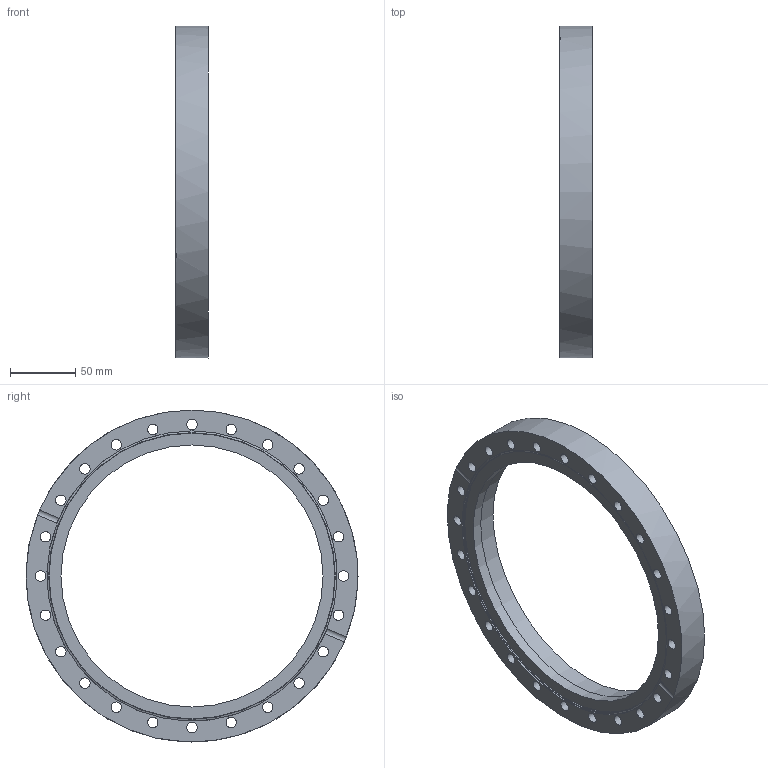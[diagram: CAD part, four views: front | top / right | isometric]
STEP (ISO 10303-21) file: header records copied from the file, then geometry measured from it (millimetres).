
FILE_DESCRIPTION( ( 'Unknown' ), '1' );
FILE_NAME( 'X:/Daten ( aktueller Bestand )/Projekte und Zeichnungen/Solid Edge/STP-Dateien/CF-Teile/7516FG4.stp', 'Unknown', ( 'Unknown' ), ( 'Unknown' ), 'PSStep 14.0', 'Unknown', ' ' );
FILE_SCHEMA( ( 'AUTOMOTIVE_DESIGN { 1 0 10303 214 1 1 1 1 }' ) );
Length unit declared in the file: millimetre
Products named in the file (1): 1
Bounding box: 24.6 x 254 x 254 mm (x, y, z)
Volume: 413137.1 mm3; surface area: 86255.2 mm2
Topology: 1 solids, 1 shells, 37 faces, 124 edges, 90 vertices
Faces by surface type: cylinder 30, plane 5, cone 2
Full cylindrical faces by diameter (mm): 8 x24, 200.5 x1, 204.3 x1, 222 x1, 254 x1
Entity records: 1502 total; most frequent: CARTESIAN_POINT 238, DIRECTION 200, ORIENTED_EDGE 136, EDGE_LOOP 118, AXIS2_PLACEMENT_3D 98, EDGE_CURVE 68, FACE_OUTER_BOUND 65, VERTEX_POINT 64
